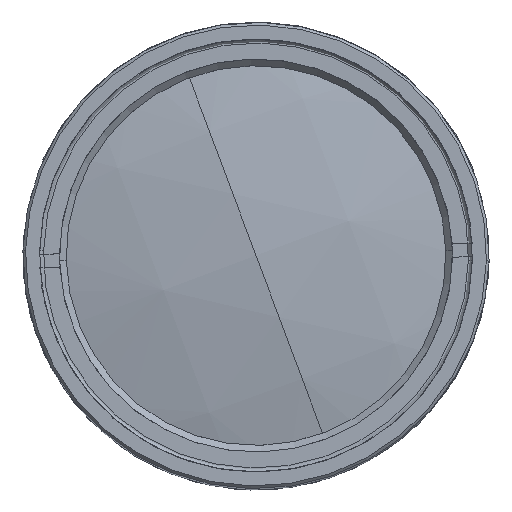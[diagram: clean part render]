
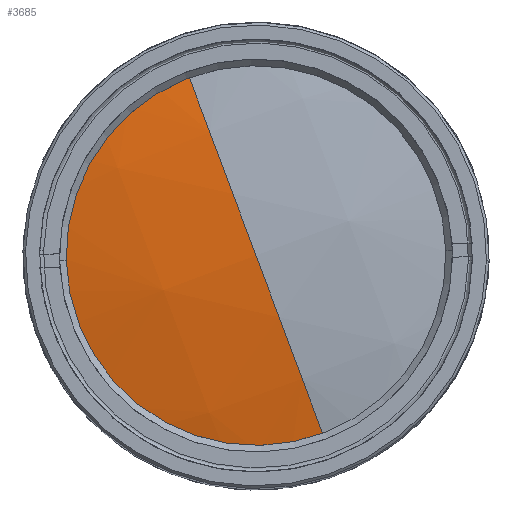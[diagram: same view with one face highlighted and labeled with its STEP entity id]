
A CAD part, top view. The second image highlights one B-rep face of the part: STEP entity #3685.
In plain terms, the highlighted spherical face has radius 64.6 mm.
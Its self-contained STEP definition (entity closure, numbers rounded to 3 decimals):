
#451 = ORIENTED_EDGE ( 'NONE', *, *, #13885, .T. ) ;
#603 = CARTESIAN_POINT ( 'NONE',  ( -13.801, -5.171, 145.924 ) ) ;
#788 = ORIENTED_EDGE ( 'NONE', *, *, #4592, .T. ) ;
#1831 = CARTESIAN_POINT ( 'NONE',  ( 0., 0., 145.924 ) ) ;
#2765 = AXIS2_PLACEMENT_3D ( 'NONE', #14548, #7167, #13122 ) ;
#3685 = ADVANCED_FACE ( 'NONE', ( #7848 ), #14987, .T. ) ;
#3985 = AXIS2_PLACEMENT_3D ( 'NONE', #9476, #4377, #12945 ) ;
#4377 = DIRECTION ( 'NONE',  ( 0.936, 0.351, 0. ) ) ;
#4592 = EDGE_CURVE ( 'NONE', #6620, #5122, #15108, .T. ) ;
#4668 = ORIENTED_EDGE ( 'NONE', *, *, #9520, .T. ) ;
#5122 = VERTEX_POINT ( 'NONE', #9834 ) ;
#5228 = DIRECTION ( 'NONE',  ( 0.351, -0.936, 0. ) ) ;
#5431 = DIRECTION ( 'NONE',  ( 0., 0., 1. ) ) ;
#6410 = AXIS2_PLACEMENT_3D ( 'NONE', #13635, #14910, #5228 ) ;
#6620 = VERTEX_POINT ( 'NONE', #10044 ) ;
#7167 = DIRECTION ( 'NONE',  ( 0., 0., 1. ) ) ;
#7412 = CARTESIAN_POINT ( 'NONE',  ( -5.171, 13.801, 145.924 ) ) ;
#7773 = DIRECTION ( 'NONE',  ( -0.936, -0.351, 0. ) ) ;
#7848 = FACE_OUTER_BOUND ( 'NONE', #13201, .T. ) ;
#9022 = DIRECTION ( 'NONE',  ( -0.936, -0.351, 0. ) ) ;
#9202 = VERTEX_POINT ( 'NONE', #603 ) ;
#9476 = CARTESIAN_POINT ( 'NONE',  ( 0., 0., 83.027 ) ) ;
#9520 = EDGE_CURVE ( 'NONE', #9202, #6620, #10170, .T. ) ;
#9656 = CIRCLE ( 'NONE', #2765, 14.738 ) ;
#9834 = CARTESIAN_POINT ( 'NONE',  ( 0., 0., 147.627 ) ) ;
#10044 = CARTESIAN_POINT ( 'NONE',  ( 5.171, -13.801, 145.924 ) ) ;
#10170 = CIRCLE ( 'NONE', #12244, 14.738 ) ;
#10795 = AXIS2_PLACEMENT_3D ( 'NONE', #14908, #7773, #12630 ) ;
#10885 = CIRCLE ( 'NONE', #3985, 64.6 ) ;
#12015 = EDGE_CURVE ( 'NONE', #13918, #5122, #10885, .T. ) ;
#12244 = AXIS2_PLACEMENT_3D ( 'NONE', #1831, #5431, #9022 ) ;
#12630 = DIRECTION ( 'NONE',  ( -0.351, 0.936, 0. ) ) ;
#12945 = DIRECTION ( 'NONE',  ( -0.351, 0.936, 0. ) ) ;
#13122 = DIRECTION ( 'NONE',  ( -0.936, -0.351, 0. ) ) ;
#13201 = EDGE_LOOP ( 'NONE', ( #451, #4668, #788, #15365 ) ) ;
#13635 = CARTESIAN_POINT ( 'NONE',  ( 0., 0., 83.027 ) ) ;
#13885 = EDGE_CURVE ( 'NONE', #13918, #9202, #9656, .T. ) ;
#13918 = VERTEX_POINT ( 'NONE', #7412 ) ;
#14548 = CARTESIAN_POINT ( 'NONE',  ( 0., 0., 145.924 ) ) ;
#14908 = CARTESIAN_POINT ( 'NONE',  ( 0., 0., 83.027 ) ) ;
#14910 = DIRECTION ( 'NONE',  ( -0.936, -0.351, 0. ) ) ;
#14987 = SPHERICAL_SURFACE ( 'NONE', #10795, 64.6 ) ;
#15108 = CIRCLE ( 'NONE', #6410, 64.6 ) ;
#15365 = ORIENTED_EDGE ( 'NONE', *, *, #12015, .F. ) ;
